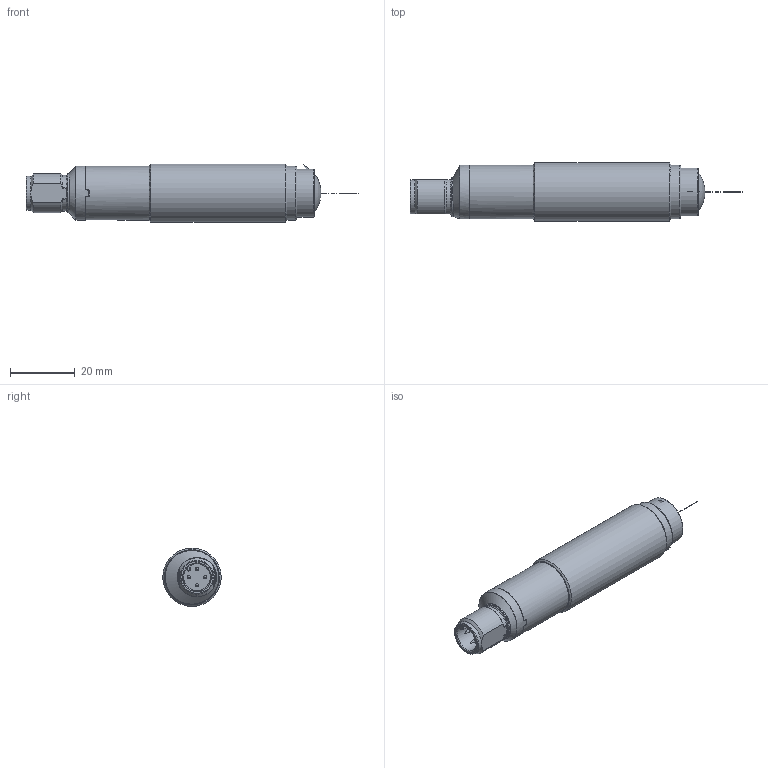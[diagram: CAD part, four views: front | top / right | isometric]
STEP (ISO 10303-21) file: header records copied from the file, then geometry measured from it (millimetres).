
FILE_DESCRIPTION(/* description */ (''),/* implementation_level */ '2;1');
FILE_NAME(/* name */ 'DSD-0227 S5-5-F8-92-SG-ST4 _ SL5-5-F-92-SG-ST4.stp',/* time_stamp */ '2020-07-24T12:42:12+02:00',/* author */ (''),/* organization */ (''),/* preprocessor_version */ 'ST-DEVELOPER v16.7',/* originating_system */ 'SIEMENS PLM Software NX 12.0',/* authorisation */ '');
FILE_SCHEMA (('AUTOMOTIVE_DESIGN { 1 0 10303 214 3 1 1 1 }'));
Length unit declared in the file: millimetre
Products named in the file (1): FGut30D8E90Fyp0o
Bounding box: 102.4 x 18 x 18.75 mm (x, y, z)
Surface area: 6508.8 mm2 (no closed solid volume)
Topology: 0 solids, 94 shells, 94 faces, 383 edges, 353 vertices
Faces by surface type: cylinder 35, plane 27, cone 13, bspline 11, torus 6, sphere 2
Full cylindrical faces by diameter (mm): 0.1 x3, 1 x4, 8.3 x1, 10.5 x1, 12.1 x1, 14.75 x1, 16.55 x2, 16.6 x1, 18 x1
Entity records: 6302 total; most frequent: CARTESIAN_POINT 2836, DIRECTION 484, VERTEX_POINT 352, ORIENTED_EDGE 351, EDGE_CURVE 351, AXIS2_PLACEMENT_3D 194, EDGE_LOOP 132, B_SPLINE_CURVE_WITH_KNOTS 111
